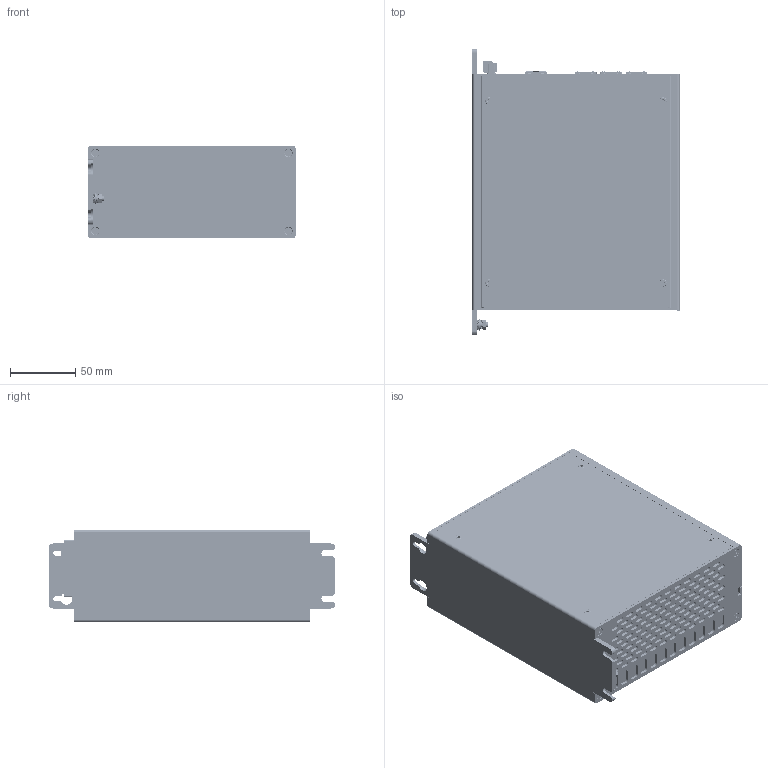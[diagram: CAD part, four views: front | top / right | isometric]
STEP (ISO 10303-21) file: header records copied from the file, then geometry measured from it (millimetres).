
FILE_DESCRIPTION((''),'2;1');
FILE_NAME('C6P33_BM_RVL_ASM','2017-09-20T',('androm'),(''),'PRO/ENGINEER BY PARAMETRIC TECHNOLOGY CORPORATION, 2013410','PRO/ENGINEER BY PARAMETRIC TECHNOLOGY CORPORATION, 2013410','');
FILE_SCHEMA(('AUTOMOTIVE_DESIGN { 1 0 10303 214 1 1 1 1 }'));
Products named in the file (1): C6P33_BM_RVL_ASM
Bounding box: 159.6 x 220 x 71 mm (x, y, z)
Surface area: 458820.9 mm2 (no closed solid volume)
Topology: 0 solids, 683 shells, 6706 faces, 30197 edges, 23691 vertices
Faces by surface type: plane 4325, cylinder 1799, cone 272, torus 138, bspline 121, sphere 44, extrusion 7
Entity records: 351446 total; most frequent: CARTESIAN_POINT 74386, DIRECTION 48712, ORIENTED_EDGE 42755, EDGE_CURVE 30105, VERTEX_POINT 23688, VECTOR 21292, LINE 21285, AXIS2_PLACEMENT_3D 13710
